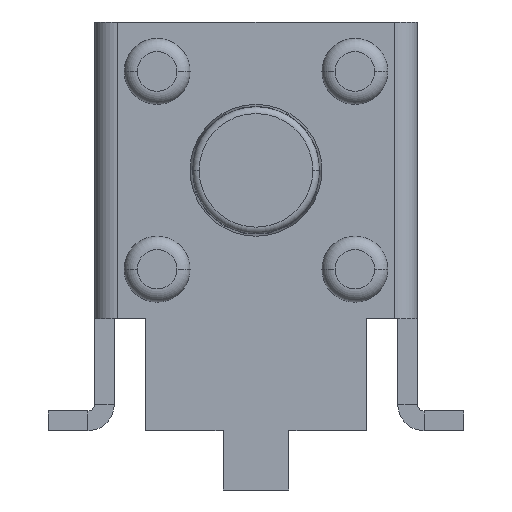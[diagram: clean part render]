
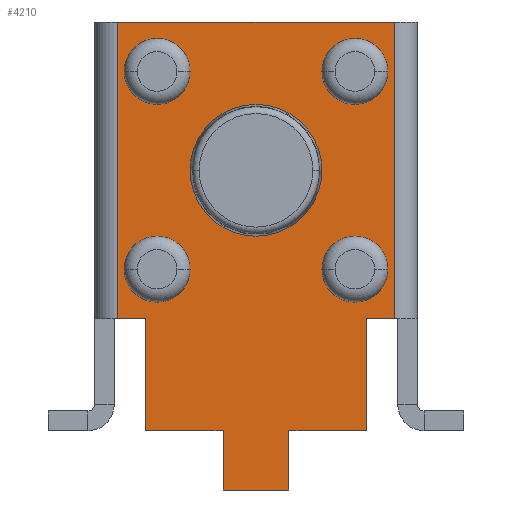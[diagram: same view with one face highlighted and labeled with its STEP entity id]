
A CAD part, front view. The second image highlights one B-rep face of the part: STEP entity #4210.
In plain terms, the highlighted planar face has unit normal (0, -1, 0).
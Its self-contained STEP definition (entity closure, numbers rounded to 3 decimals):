
#2561=CARTESIAN_POINT('',(0.,-0.3,0.));
#2562=DIRECTION('',(0.,1.,0.));
#2563=DIRECTION('',(0.,0.,1.));
#2564=AXIS2_PLACEMENT_3D('',#2561,#2562,#2563);
#2566=CARTESIAN_POINT('',(0.,-0.3,0.));
#2567=DIRECTION('',(0.,1.,0.));
#2568=DIRECTION('',(0.,0.,-1.));
#2569=AXIS2_PLACEMENT_3D('',#2566,#2567,#2568);
#2571=CARTESIAN_POINT('',(-1.5,-0.3,-1.5));
#2572=DIRECTION('',(0.,1.,0.));
#2573=DIRECTION('',(0.,0.,1.));
#2574=AXIS2_PLACEMENT_3D('',#2571,#2572,#2573);
#2576=CARTESIAN_POINT('',(-1.5,-0.3,-1.5));
#2577=DIRECTION('',(0.,1.,0.));
#2578=DIRECTION('',(0.,0.,-1.));
#2579=AXIS2_PLACEMENT_3D('',#2576,#2577,#2578);
#2581=CARTESIAN_POINT('',(-1.5,-0.3,1.5));
#2582=DIRECTION('',(0.,1.,0.));
#2583=DIRECTION('',(0.,0.,1.));
#2584=AXIS2_PLACEMENT_3D('',#2581,#2582,#2583);
#2586=CARTESIAN_POINT('',(-1.5,-0.3,1.5));
#2587=DIRECTION('',(0.,1.,0.));
#2588=DIRECTION('',(0.,0.,-1.));
#2589=AXIS2_PLACEMENT_3D('',#2586,#2587,#2588);
#2591=CARTESIAN_POINT('',(1.5,-0.3,-1.5));
#2592=DIRECTION('',(0.,1.,0.));
#2593=DIRECTION('',(0.,0.,1.));
#2594=AXIS2_PLACEMENT_3D('',#2591,#2592,#2593);
#2596=CARTESIAN_POINT('',(1.5,-0.3,-1.5));
#2597=DIRECTION('',(0.,1.,0.));
#2598=DIRECTION('',(0.,0.,-1.));
#2599=AXIS2_PLACEMENT_3D('',#2596,#2597,#2598);
#2601=CARTESIAN_POINT('',(1.5,-0.3,1.5));
#2602=DIRECTION('',(0.,1.,0.));
#2603=DIRECTION('',(0.,0.,1.));
#2604=AXIS2_PLACEMENT_3D('',#2601,#2602,#2603);
#2606=CARTESIAN_POINT('',(1.5,-0.3,1.5));
#2607=DIRECTION('',(0.,1.,0.));
#2608=DIRECTION('',(0.,0.,-1.));
#2609=AXIS2_PLACEMENT_3D('',#2606,#2607,#2608);
#2611=DIRECTION('',(1.,0.,0.));
#2612=VECTOR('',#2611,1.175);
#2613=CARTESIAN_POINT('',(0.5,-0.3,-3.95));
#2614=LINE('',#2613,#2612);
#2615=DIRECTION('',(0.,0.,1.));
#2616=VECTOR('',#2615,0.9);
#2617=CARTESIAN_POINT('',(0.5,-0.3,-4.85));
#2618=LINE('',#2617,#2616);
#2619=DIRECTION('',(1.,0.,0.));
#2620=VECTOR('',#2619,1.);
#2621=CARTESIAN_POINT('',(-0.5,-0.3,-4.85));
#2622=LINE('',#2621,#2620);
#2623=DIRECTION('',(0.,0.,-1.));
#2624=VECTOR('',#2623,0.9);
#2625=CARTESIAN_POINT('',(-0.5,-0.3,-3.95));
#2626=LINE('',#2625,#2624);
#2627=DIRECTION('',(1.,0.,0.));
#2628=VECTOR('',#2627,1.175);
#2629=CARTESIAN_POINT('',(-1.675,-0.3,-3.95));
#2630=LINE('',#2629,#2628);
#2631=DIRECTION('',(0.,0.,-1.));
#2632=VECTOR('',#2631,1.7);
#2633=CARTESIAN_POINT('',(-1.675,-0.3,-2.25));
#2634=LINE('',#2633,#2632);
#2635=DIRECTION('',(0.,0.,1.));
#2636=VECTOR('',#2635,1.7);
#2637=CARTESIAN_POINT('',(1.675,-0.3,-3.95));
#2638=LINE('',#2637,#2636);
#2679=DIRECTION('',(1.,0.,0.));
#2680=VECTOR('',#2679,0.425);
#2681=CARTESIAN_POINT('',(1.675,-0.3,-2.25));
#2682=LINE('',#2681,#2680);
#2704=DIRECTION('',(0.,0.,-1.));
#2705=VECTOR('',#2704,4.5);
#2706=CARTESIAN_POINT('',(2.1,-0.3,2.25));
#2707=LINE('',#2706,#2705);
#3185=DIRECTION('',(-1.,0.,0.));
#3186=VECTOR('',#3185,4.2);
#3187=CARTESIAN_POINT('',(2.1,-0.3,2.25));
#3188=LINE('',#3187,#3186);
#3206=DIRECTION('',(0.,0.,1.));
#3207=VECTOR('',#3206,4.5);
#3208=CARTESIAN_POINT('',(-2.1,-0.3,-2.25));
#3209=LINE('',#3208,#3207);
#3551=DIRECTION('',(1.,0.,0.));
#3552=VECTOR('',#3551,0.425);
#3553=CARTESIAN_POINT('',(-2.1,-0.3,-2.25));
#3554=LINE('',#3553,#3552);
#3733=CARTESIAN_POINT('',(0.,-0.3,1.));
#3734=CARTESIAN_POINT('',(0.,-0.3,-1.));
#3735=VERTEX_POINT('',#3733);
#3736=VERTEX_POINT('',#3734);
#3737=CARTESIAN_POINT('',(-1.5,-0.3,-1.25));
#3738=CARTESIAN_POINT('',(-1.5,-0.3,-1.75));
#3739=VERTEX_POINT('',#3737);
#3740=VERTEX_POINT('',#3738);
#3741=CARTESIAN_POINT('',(-1.5,-0.3,1.75));
#3742=CARTESIAN_POINT('',(-1.5,-0.3,1.25));
#3743=VERTEX_POINT('',#3741);
#3744=VERTEX_POINT('',#3742);
#3745=CARTESIAN_POINT('',(1.5,-0.3,-1.25));
#3746=CARTESIAN_POINT('',(1.5,-0.3,-1.75));
#3747=VERTEX_POINT('',#3745);
#3748=VERTEX_POINT('',#3746);
#3749=CARTESIAN_POINT('',(1.5,-0.3,1.75));
#3750=CARTESIAN_POINT('',(1.5,-0.3,1.25));
#3751=VERTEX_POINT('',#3749);
#3752=VERTEX_POINT('',#3750);
#3753=CARTESIAN_POINT('',(-1.675,-0.3,-2.25));
#3754=CARTESIAN_POINT('',(-1.675,-0.3,-3.95));
#3755=VERTEX_POINT('',#3753);
#3756=VERTEX_POINT('',#3754);
#3757=CARTESIAN_POINT('',(1.675,-0.3,-3.95));
#3758=CARTESIAN_POINT('',(1.675,-0.3,-2.25));
#3759=VERTEX_POINT('',#3757);
#3760=VERTEX_POINT('',#3758);
#3769=CARTESIAN_POINT('',(-0.5,-0.3,-3.95));
#3770=CARTESIAN_POINT('',(-0.5,-0.3,-4.85));
#3771=VERTEX_POINT('',#3769);
#3772=VERTEX_POINT('',#3770);
#3773=CARTESIAN_POINT('',(0.5,-0.3,-4.85));
#3774=VERTEX_POINT('',#3773);
#3775=CARTESIAN_POINT('',(0.5,-0.3,-3.95));
#3776=VERTEX_POINT('',#3775);
#3791=CARTESIAN_POINT('',(-2.1,-0.3,2.25));
#3792=VERTEX_POINT('',#3791);
#3793=CARTESIAN_POINT('',(-2.1,-0.3,-2.25));
#3794=VERTEX_POINT('',#3793);
#3815=CARTESIAN_POINT('',(2.1,-0.3,-2.25));
#3816=VERTEX_POINT('',#3815);
#3817=CARTESIAN_POINT('',(2.1,-0.3,2.25));
#3818=VERTEX_POINT('',#3817);
#4151=CARTESIAN_POINT('',(0.,-0.3,0.));
#4152=DIRECTION('',(0.,-1.,0.));
#4153=DIRECTION('',(0.,0.,1.));
#4154=AXIS2_PLACEMENT_3D('',#4151,#4152,#4153);
#4155=PLANE('',#4154);
#4157=ORIENTED_EDGE('',*,*,#4156,.F.);
#4159=ORIENTED_EDGE('',*,*,#4158,.F.);
#4161=ORIENTED_EDGE('',*,*,#4160,.F.);
#4163=ORIENTED_EDGE('',*,*,#4162,.F.);
#4165=ORIENTED_EDGE('',*,*,#4164,.F.);
#4167=ORIENTED_EDGE('',*,*,#4166,.F.);
#4169=ORIENTED_EDGE('',*,*,#4168,.F.);
#4171=ORIENTED_EDGE('',*,*,#4170,.T.);
#4173=ORIENTED_EDGE('',*,*,#4172,.F.);
#4175=ORIENTED_EDGE('',*,*,#4174,.T.);
#4177=ORIENTED_EDGE('',*,*,#4176,.F.);
#4179=ORIENTED_EDGE('',*,*,#4178,.F.);
#4180=EDGE_LOOP('',(#4157,#4159,#4161,#4163,#4165,#4167,#4169,#4171,#4173,#4175,
#4177,#4179));
#4181=FACE_OUTER_BOUND('',#4180,.F.);
#4183=ORIENTED_EDGE('',*,*,#4182,.F.);
#4185=ORIENTED_EDGE('',*,*,#4184,.F.);
#4186=EDGE_LOOP('',(#4183,#4185));
#4187=FACE_BOUND('',#4186,.F.);
#4189=ORIENTED_EDGE('',*,*,#4188,.F.);
#4191=ORIENTED_EDGE('',*,*,#4190,.F.);
#4192=EDGE_LOOP('',(#4189,#4191));
#4193=FACE_BOUND('',#4192,.F.);
#4195=ORIENTED_EDGE('',*,*,#4194,.F.);
#4197=ORIENTED_EDGE('',*,*,#4196,.F.);
#4198=EDGE_LOOP('',(#4195,#4197));
#4199=FACE_BOUND('',#4198,.F.);
#4201=ORIENTED_EDGE('',*,*,#4200,.F.);
#4203=ORIENTED_EDGE('',*,*,#4202,.F.);
#4204=EDGE_LOOP('',(#4201,#4203));
#4205=FACE_BOUND('',#4204,.F.);
#4206=ORIENTED_EDGE('',*,*,#4131,.F.);
#4207=ORIENTED_EDGE('',*,*,#4145,.F.);
#4208=EDGE_LOOP('',(#4206,#4207));
#4209=FACE_BOUND('',#4208,.F.);
#2565=CIRCLE('',#2564,1.);
#2570=CIRCLE('',#2569,1.);
#2575=CIRCLE('',#2574,0.25);
#2580=CIRCLE('',#2579,0.25);
#2585=CIRCLE('',#2584,0.25);
#2590=CIRCLE('',#2589,0.25);
#2595=CIRCLE('',#2594,0.25);
#2600=CIRCLE('',#2599,0.25);
#2605=CIRCLE('',#2604,0.25);
#2610=CIRCLE('',#2609,0.25);
#4131=EDGE_CURVE('',#3735,#3736,#2565,.T.);
#4145=EDGE_CURVE('',#3736,#3735,#2570,.T.);
#4156=EDGE_CURVE('',#3776,#3759,#2614,.T.);
#4158=EDGE_CURVE('',#3774,#3776,#2618,.T.);
#4160=EDGE_CURVE('',#3772,#3774,#2622,.T.);
#4162=EDGE_CURVE('',#3771,#3772,#2626,.T.);
#4164=EDGE_CURVE('',#3756,#3771,#2630,.T.);
#4166=EDGE_CURVE('',#3755,#3756,#2634,.T.);
#4168=EDGE_CURVE('',#3794,#3755,#3554,.T.);
#4170=EDGE_CURVE('',#3794,#3792,#3209,.T.);
#4172=EDGE_CURVE('',#3818,#3792,#3188,.T.);
#4174=EDGE_CURVE('',#3818,#3816,#2707,.T.);
#4176=EDGE_CURVE('',#3760,#3816,#2682,.T.);
#4178=EDGE_CURVE('',#3759,#3760,#2638,.T.);
#4182=EDGE_CURVE('',#3739,#3740,#2575,.T.);
#4184=EDGE_CURVE('',#3740,#3739,#2580,.T.);
#4188=EDGE_CURVE('',#3743,#3744,#2585,.T.);
#4190=EDGE_CURVE('',#3744,#3743,#2590,.T.);
#4194=EDGE_CURVE('',#3747,#3748,#2595,.T.);
#4196=EDGE_CURVE('',#3748,#3747,#2600,.T.);
#4200=EDGE_CURVE('',#3751,#3752,#2605,.T.);
#4202=EDGE_CURVE('',#3752,#3751,#2610,.T.);
#4210=ADVANCED_FACE('',(#4181,#4187,#4193,#4199,#4205,#4209),#4155,.T.);
